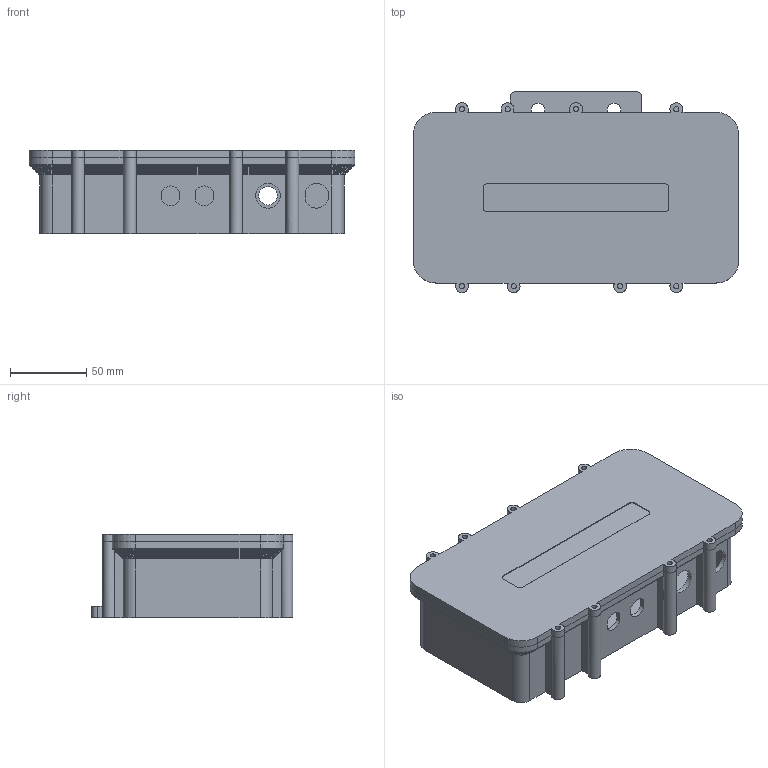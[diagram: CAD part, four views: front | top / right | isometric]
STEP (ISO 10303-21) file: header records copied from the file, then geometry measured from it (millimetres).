
FILE_DESCRIPTION(('FreeCAD Model'),'2;1');
FILE_NAME('Open CASCADE Shape Model','2026-09-10T22:55:31',( '' ),( '' ),'Open CASCADE STEP processor 7.8','FreeCAD','Unknown');
FILE_SCHEMA(('AUTOMOTIVE_DESIGN { 1 0 10303 214 1 1 1 1 }'));
Length unit declared in the file: millimetre
Products named in the file (1): Open CASCADE STEP translator 7.8 12
Bounding box: 214.4 x 132.4 x 55 mm (x, y, z)
Volume: 338415.3 mm3; surface area: 180181.6 mm2
Topology: 2 solids, 2 shells, 723 faces, 2003 edges, 1340 vertices
Faces by surface type: plane 527, cylinder 188, torus 8
Full cylindrical faces by diameter (mm): 1.6 x4, 3.2 x10, 3.4 x8, 4 x16, 5.5 x10, 7.2 x8, 9 x2, 12.2 x1, 16.2 x1
Entity records: 23166 total; most frequent: CARTESIAN_POINT 4067, ORIENTED_EDGE 4006, DIRECTION 3932, EDGE_CURVE 2003, LINE 1522, VECTOR 1522, VERTEX_POINT 1340, AXIS2_PLACEMENT_3D 1205
